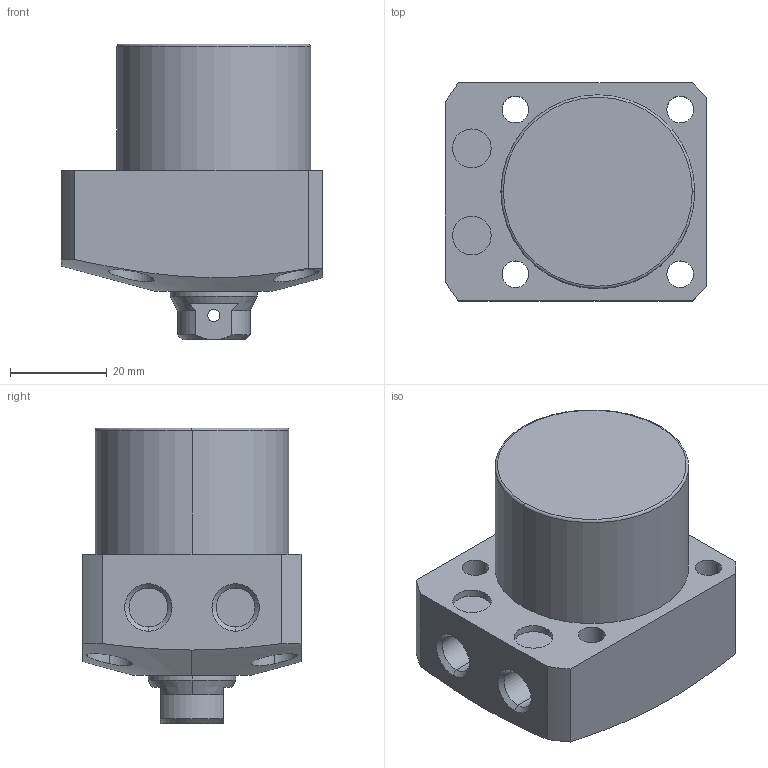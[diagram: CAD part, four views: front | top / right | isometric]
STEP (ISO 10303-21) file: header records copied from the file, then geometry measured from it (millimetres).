
FILE_DESCRIPTION (( 'STEP AP203' ), '1' );
FILE_NAME ('CLL-0400-CB-（1-14）.STEP', '2017-05-09T05:42:45', ( '' ), ( '' ), 'SwSTEP 2.0', 'SolidWorks 2015', '' );
FILE_SCHEMA (( 'CONFIG_CONTROL_DESIGN' ));
Length unit declared in the file: millimetre
Products named in the file (1): CLL-0400-CB-（1-14）
Bounding box: 54 x 45 x 61 mm (x, y, z)
Volume: 84088.7 mm3; surface area: 15195.7 mm2
Topology: 1 solids, 1 shells, 78 faces, 182 edges, 115 vertices
Faces by surface type: cylinder 39, plane 22, cone 15, torus 2
Entity records: 2728 total; most frequent: CARTESIAN_POINT 829, DIRECTION 394, ORIENTED_EDGE 360, EDGE_CURVE 180, AXIS2_PLACEMENT_3D 163, VERTEX_POINT 115, EDGE_LOOP 101, CIRCLE 84
